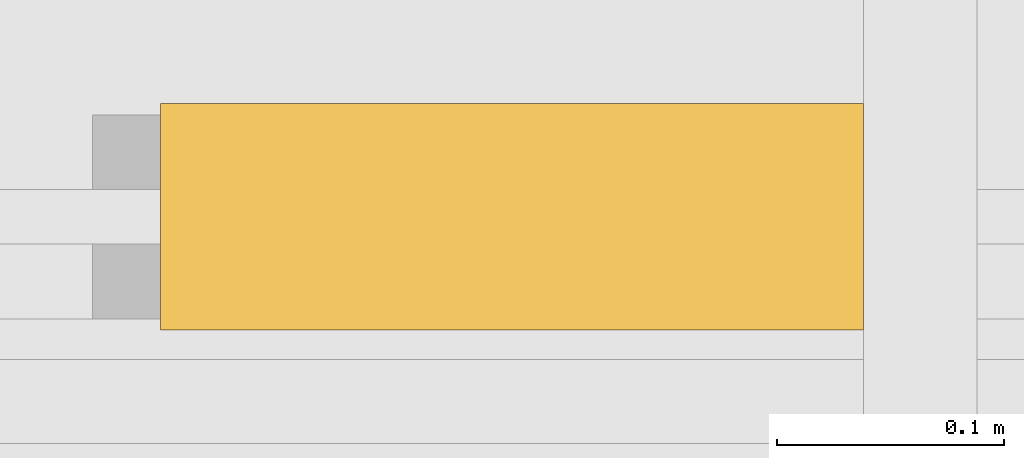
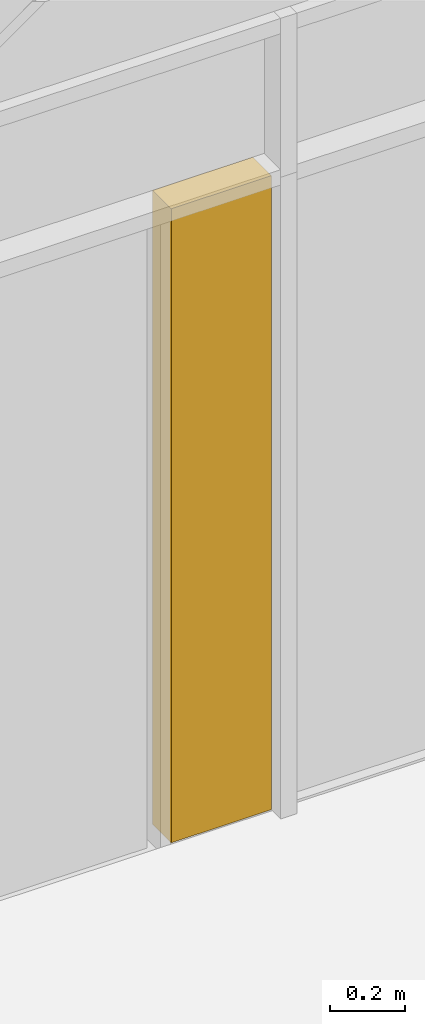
# One storey, part 66 of 76: 1 curtain wall, 1 element without a shape of its own.
"""IFC2X3 building model written with IfcOpenShell, lengths in millimetres."""

from ifc_helpers import new_model, entity, si_unit, converted_unit, derived_unit, direction, frame, frame_2d, origin, place, context, subcontext, project, spatial, rectangle, extrude, material, layer, layer_set, layer_usage, type_object, element, aggregate, save


model = new_model("IFC2X3")

# Units and contexts
model_context = context("Model", 3, precision=0.01, world=origin(), true_north=direction((6.123031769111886e-17, 1.0)))
body_context = subcontext(model_context, "Body", "Model", "MODEL_VIEW")
ifc_project = project(units=[si_unit("LENGTHUNIT", "METRE", prefix="MILLI"), si_unit("AREAUNIT", "SQUARE_METRE"), si_unit("VOLUMEUNIT", "CUBIC_METRE"), converted_unit("PLANEANGLEUNIT", "DEGREE", entity("IfcRatioMeasure", 0.017453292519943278), si_unit("PLANEANGLEUNIT", "RADIAN"), dimensions=[0, 0, 0, 0, 0, 0, 0]), si_unit("MASSUNIT", "GRAM", prefix="KILO"), derived_unit("MASSDENSITYUNIT", [(si_unit("MASSUNIT", "GRAM", prefix="KILO"), 1), (si_unit("LENGTHUNIT", "METRE"), -3)]), derived_unit("MOMENTOFINERTIAUNIT", [(si_unit("LENGTHUNIT", "METRE"), 4)]), si_unit("TIMEUNIT", "SECOND"), si_unit("FREQUENCYUNIT", "HERTZ"), si_unit("THERMODYNAMICTEMPERATUREUNIT", "DEGREE_CELSIUS"), derived_unit("THERMALTRANSMITTANCEUNIT", [(si_unit("MASSUNIT", "GRAM", prefix="KILO"), 1), (si_unit("THERMODYNAMICTEMPERATUREUNIT", "KELVIN"), -1), (si_unit("TIMEUNIT", "SECOND"), -3)]), derived_unit("VOLUMETRICFLOWRATEUNIT", [(si_unit("LENGTHUNIT", "METRE"), 3), (si_unit("TIMEUNIT", "SECOND"), -1)]), derived_unit("MASSFLOWRATEUNIT", [(si_unit("MASSUNIT", "GRAM", prefix="KILO"), 1), (si_unit("TIMEUNIT", "SECOND"), -1)]), derived_unit("ROTATIONALFREQUENCYUNIT", [(si_unit("TIMEUNIT", "SECOND"), -1)]), si_unit("ELECTRICCURRENTUNIT", "AMPERE"), si_unit("ELECTRICVOLTAGEUNIT", "VOLT"), si_unit("POWERUNIT", "WATT"), si_unit("FORCEUNIT", "NEWTON", prefix="KILO"), si_unit("ILLUMINANCEUNIT", "LUX"), si_unit("LUMINOUSFLUXUNIT", "LUMEN"), si_unit("LUMINOUSINTENSITYUNIT", "CANDELA"), derived_unit("USERDEFINED", [(si_unit("MASSUNIT", "GRAM", prefix="KILO"), -1), (si_unit("LENGTHUNIT", "METRE"), -2), (si_unit("TIMEUNIT", "SECOND"), 3), (si_unit("LUMINOUSFLUXUNIT", "LUMEN"), 1)]), derived_unit("SOUNDPOWERUNIT", [(si_unit("MASSUNIT", "GRAM", prefix="KILO"), 1), (si_unit("LENGTHUNIT", "METRE"), 2), (si_unit("TIMEUNIT", "SECOND"), -3)]), derived_unit("SOUNDPRESSUREUNIT", [(si_unit("MASSUNIT", "GRAM", prefix="KILO"), 1), (si_unit("LENGTHUNIT", "METRE"), -1), (si_unit("TIMEUNIT", "SECOND"), -2)]), derived_unit("LINEARVELOCITYUNIT", [(si_unit("LENGTHUNIT", "METRE"), 1), (si_unit("TIMEUNIT", "SECOND"), -1)]), si_unit("PRESSUREUNIT", "PASCAL"), derived_unit("USERDEFINED", [(si_unit("LENGTHUNIT", "METRE"), -2), (si_unit("MASSUNIT", "GRAM", prefix="KILO"), 1), (si_unit("TIMEUNIT", "SECOND"), -2)]), derived_unit("LINEARFORCEUNIT", [(si_unit("MASSUNIT", "GRAM", prefix="KILO"), 1), (si_unit("LENGTHUNIT", "METRE"), 1), (si_unit("TIMEUNIT", "SECOND"), -2), (si_unit("LENGTHUNIT", "METRE"), -1)]), derived_unit("PLANARFORCEUNIT", [(si_unit("MASSUNIT", "GRAM", prefix="KILO"), 1), (si_unit("LENGTHUNIT", "METRE"), 1), (si_unit("TIMEUNIT", "SECOND"), -2), (si_unit("LENGTHUNIT", "METRE"), -2)])], contexts=[model_context])

# Site, building, storey
site_placement = place(None, frame((-14167.972527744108, -657.2125860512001, 0.0)))
site = spatial("IfcSite", under=ifc_project, at=site_placement, Name="Default", CompositionType="ELEMENT")
building_placement = place(site_placement, origin())
building = spatial("IfcBuilding", under=site, at=building_placement, Name="Sample Building", CompositionType="ELEMENT")
storey_placement = place(building_placement, frame((0.0, 0.0, 9300.0)))
storey = spatial("IfcBuildingStorey", under=building, at=storey_placement, Name="지상 3층", CompositionType="ELEMENT", Elevation=9300.000000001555)

# Curtain walls
curtain_wall_type_1 = type_object("IfcCurtainWallType", Name="커튼월:CW112-스테인리스 스틸 커튼월", PredefinedType="NOTDEFINED")
curtain_wall_1_placement = place(storey_placement, frame((0.0, 0.0, -9300.0)))
curtain_wall_1 = element("IfcCurtainWall", 1, at=curtain_wall_1_placement, inside=storey, type_object=curtain_wall_type_1, Name="커튼월:CW112-스테인리스 스틸 커튼월", ObjectType="커튼월:CW112-스테인리스 스틸 커튼월")
ifc_material = material(Name="KBIMS-콘크리트")
ifc_layer = layer(ifc_material, 100.0)
ifc_layer_set = layer_set([ifc_layer], Name="커튼월:CW112-스테인리스 스틸 커튼월")
ifc_layer_usage = layer_usage(ifc_layer_set, "AXIS2", "NEGATIVE", 50.0)
curtain_wall_type_2 = type_object("IfcCurtainWallType", Name="기본 벽:WA111-철근콘크리트구조 벽 100mm", PredefinedType="NOTDEFINED", material=ifc_layer_set)
curtain_wall_2_placement = place(storey_placement, frame((36112.972491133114, 13012.19487839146, 80.0)))
curtain_wall_2 = element("IfcCurtainWall", 2, at=curtain_wall_2_placement, type_object=curtain_wall_type_2, material=ifc_layer_usage, Name="기본 벽:WA111-철근콘크리트구조 벽 100mm", ObjectType="기본 벽:WA111-철근콘크리트구조 벽 100mm", context=body_context, shape_type="SweptSolid", body=[
    extrude(rectangle(XDim=310.0000000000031, YDim=99.99999999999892, at=frame_2d((155.00000000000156, -5.933031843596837e-13), x_axis=(-1.0, 0.0))), origin(), (0.0, 0.0, 1.0), 2075.0000000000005),
])
aggregate(curtain_wall_1, [curtain_wall_2])

save(model, "model.ifc")
